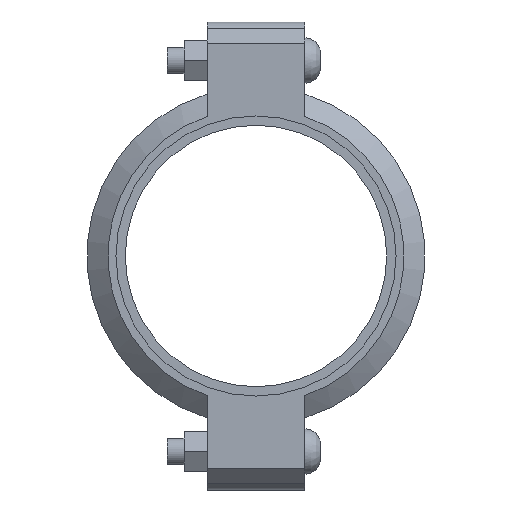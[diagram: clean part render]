
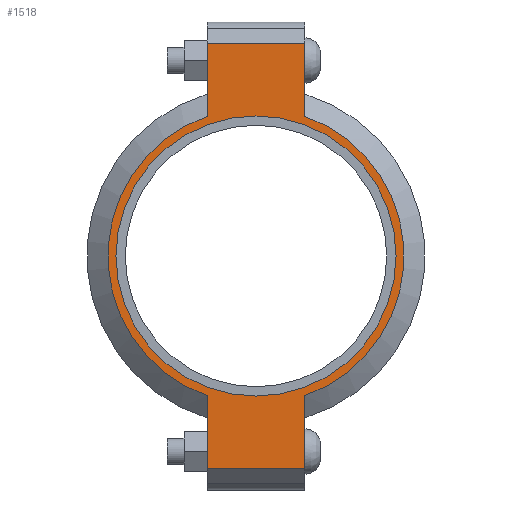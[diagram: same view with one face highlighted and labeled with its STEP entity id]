
A CAD part, left-side view. The second image highlights one B-rep face of the part: STEP entity #1518.
In plain terms, the highlighted planar face has unit normal (-1, 0, 0) as drawn and (0, 0, 1) by its records, which use the part's own axes.
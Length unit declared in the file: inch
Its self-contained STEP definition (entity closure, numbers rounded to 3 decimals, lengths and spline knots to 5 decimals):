
#142=LINE('',#2649,#235);
#150=LINE('',#2685,#243);
#157=LINE('',#2706,#250);
#166=LINE('',#2738,#259);
#167=LINE('',#2742,#260);
#168=LINE('',#2744,#261);
#235=VECTOR('',#2165,0.3937);
#243=VECTOR('',#2181,0.3937);
#250=VECTOR('',#2200,0.3937);
#259=VECTOR('',#2225,0.3937);
#260=VECTOR('',#2230,0.3937);
#261=VECTOR('',#2231,0.3937);
#317=FACE_BOUND('',#495,.T.);
#389=FACE_OUTER_BOUND('',#494,.T.);
#494=EDGE_LOOP('',(#1259,#1260,#1261,#1262,#1263,#1264,#1265,#1266));
#495=EDGE_LOOP('',(#1267));
#567=CIRCLE('',#1737,3.3125);
#593=CIRCLE('',#1796,3.5);
#594=CIRCLE('',#1797,3.5);
#659=VERTEX_POINT('',#2465);
#702=VERTEX_POINT('',#2646);
#703=VERTEX_POINT('',#2648);
#714=VERTEX_POINT('',#2680);
#715=VERTEX_POINT('',#2684);
#722=VERTEX_POINT('',#2703);
#723=VERTEX_POINT('',#2705);
#733=VERTEX_POINT('',#2741);
#734=VERTEX_POINT('',#2743);
#815=EDGE_CURVE('',#659,#659,#567,.T.);
#876=EDGE_CURVE('',#703,#702,#142,.T.);
#890=EDGE_CURVE('',#715,#714,#150,.T.);
#900=EDGE_CURVE('',#723,#722,#157,.T.);
#915=EDGE_CURVE('',#715,#702,#166,.T.);
#916=EDGE_CURVE('',#714,#723,#593,.T.);
#917=EDGE_CURVE('',#733,#722,#167,.T.);
#918=EDGE_CURVE('',#733,#734,#168,.T.);
#919=EDGE_CURVE('',#734,#703,#594,.T.);
#1259=ORIENTED_EDGE('',*,*,#915,.F.);
#1260=ORIENTED_EDGE('',*,*,#890,.T.);
#1261=ORIENTED_EDGE('',*,*,#916,.T.);
#1262=ORIENTED_EDGE('',*,*,#900,.T.);
#1263=ORIENTED_EDGE('',*,*,#917,.F.);
#1264=ORIENTED_EDGE('',*,*,#918,.T.);
#1265=ORIENTED_EDGE('',*,*,#919,.T.);
#1266=ORIENTED_EDGE('',*,*,#876,.T.);
#1267=ORIENTED_EDGE('',*,*,#815,.T.);
#1360=PLANE('',#1795);
#1518=ADVANCED_FACE('',(#389,#317),#1360,.T.);
#1737=AXIS2_PLACEMENT_3D('',#2467,#2041,#2042);
#1795=AXIS2_PLACEMENT_3D('',#2739,#2226,#2227);
#1796=AXIS2_PLACEMENT_3D('',#2740,#2228,#2229);
#1797=AXIS2_PLACEMENT_3D('',#2745,#2232,#2233);
#2041=DIRECTION('center_axis',(0.,0.,-1.));
#2042=DIRECTION('ref_axis',(-1.,0.,0.));
#2165=DIRECTION('',(-1.,0.,0.));
#2181=DIRECTION('',(1.,0.,0.));
#2200=DIRECTION('',(1.,0.,0.));
#2225=DIRECTION('',(0.,1.,0.));
#2226=DIRECTION('center_axis',(0.,0.,1.));
#2227=DIRECTION('ref_axis',(1.,0.,0.));
#2228=DIRECTION('center_axis',(0.,0.,1.));
#2229=DIRECTION('ref_axis',(-1.,0.,0.));
#2230=DIRECTION('',(0.,-1.,0.));
#2231=DIRECTION('',(-1.,0.,0.));
#2232=DIRECTION('center_axis',(0.,0.,1.));
#2233=DIRECTION('ref_axis',(-1.,0.,0.));
#2465=CARTESIAN_POINT('',(3.3125,0.,1.065));
#2467=CARTESIAN_POINT('Origin',(0.,0.,1.065));
#2646=CARTESIAN_POINT('',(-5.035,1.156,1.065));
#2648=CARTESIAN_POINT('',(-3.30358,1.156,1.065));
#2649=CARTESIAN_POINT('',(-5.535,1.156,1.065));
#2680=CARTESIAN_POINT('',(-3.30358,-1.156,1.065));
#2684=CARTESIAN_POINT('',(-5.035,-1.156,1.065));
#2685=CARTESIAN_POINT('',(5.535,-1.156,1.065));
#2703=CARTESIAN_POINT('',(5.035,-1.156,1.065));
#2705=CARTESIAN_POINT('',(3.30358,-1.156,1.065));
#2706=CARTESIAN_POINT('',(5.535,-1.156,1.065));
#2738=CARTESIAN_POINT('',(-5.035,0.578,1.065));
#2739=CARTESIAN_POINT('Origin',(0.,0.,1.065));
#2740=CARTESIAN_POINT('Origin',(0.,0.,1.065));
#2741=CARTESIAN_POINT('',(5.035,1.156,1.065));
#2742=CARTESIAN_POINT('',(5.035,-0.578,1.065));
#2743=CARTESIAN_POINT('',(3.30358,1.156,1.065));
#2744=CARTESIAN_POINT('',(-5.535,1.156,1.065));
#2745=CARTESIAN_POINT('Origin',(0.,0.,1.065));
